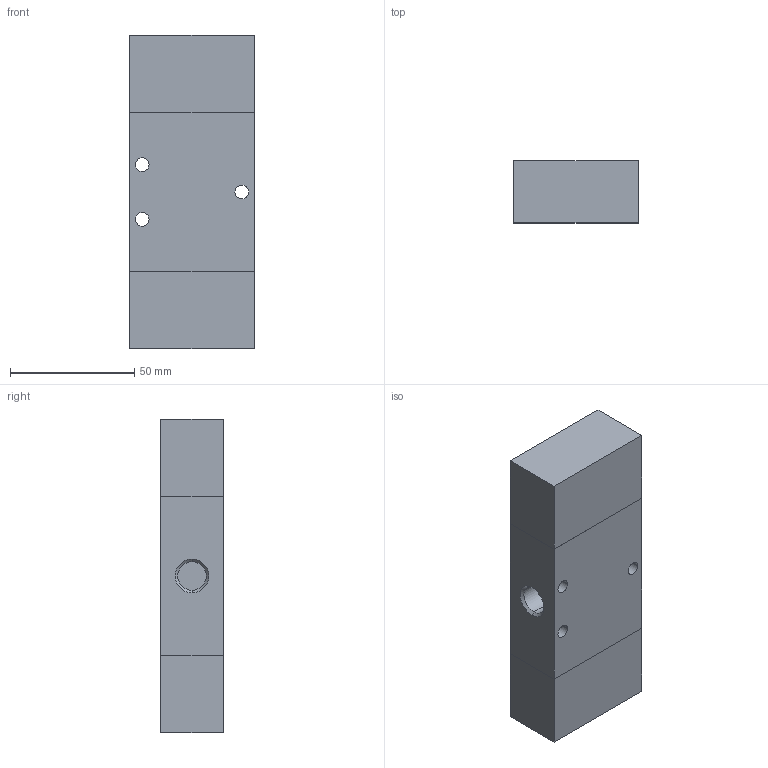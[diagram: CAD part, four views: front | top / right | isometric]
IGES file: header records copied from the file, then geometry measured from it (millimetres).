
Global section: file name: No Iges File Name specified; native system: AutoDesk Inventor R11.0; preprocessor: AutoDesk Inventor Iges Exporter R11.0; author: No Author specified; organization: No Organization specified; date: 20061219.092159; units: millimetre
Bounding box: 50 x 25 x 126 mm (x, y, z)
Volume: 151149.1 mm3; surface area: 24094 mm2
Topology: 1 solids, 1 shells, 47 faces, 104 edges, 66 vertices
Faces by surface type: bspline 25, plane 12, revolution 10
